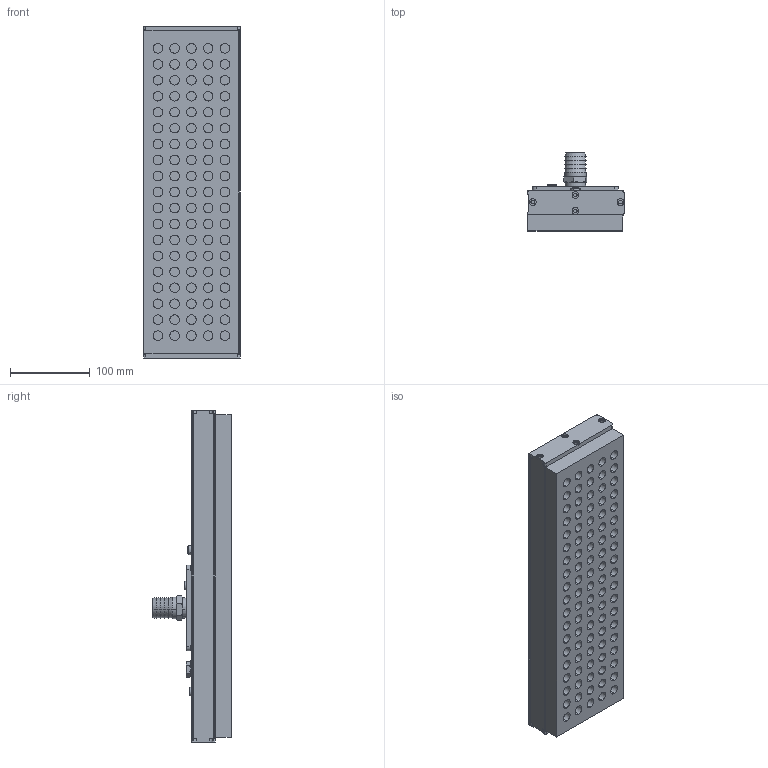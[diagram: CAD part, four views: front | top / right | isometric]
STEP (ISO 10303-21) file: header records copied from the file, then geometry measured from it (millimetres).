
FILE_DESCRIPTION (( 'STEP AP214' ), '1' );
FILE_NAME ('310 400 015.STEP', '2018-01-10T07:50:22', ( '' ), ( '' ), 'SwSTEP 2.0', 'SolidWorks 2017', '' );
FILE_SCHEMA (( 'AUTOMOTIVE_DESIGN' ));
Length unit declared in the file: millimetre
Products named in the file (1): 310 400 015
Bounding box: 121.5 x 98.5 x 416 mm (x, y, z)
Volume: 2321053.1 mm3; surface area: 248966.1 mm2
Topology: 1 solids, 2 shells, 766 faces, 1708 edges, 1084 vertices
Faces by surface type: cylinder 376, plane 254, torus 86, cone 40, bspline 6, sphere 4
Entity records: 30382 total; most frequent: DIRECTION 4152, CARTESIAN_POINT 4133, ORIENTED_EDGE 3396, AXIS2_PLACEMENT_3D 1737, EDGE_CURVE 1698, VERTEX_POINT 1078, CIRCLE 976, EDGE_LOOP 910
